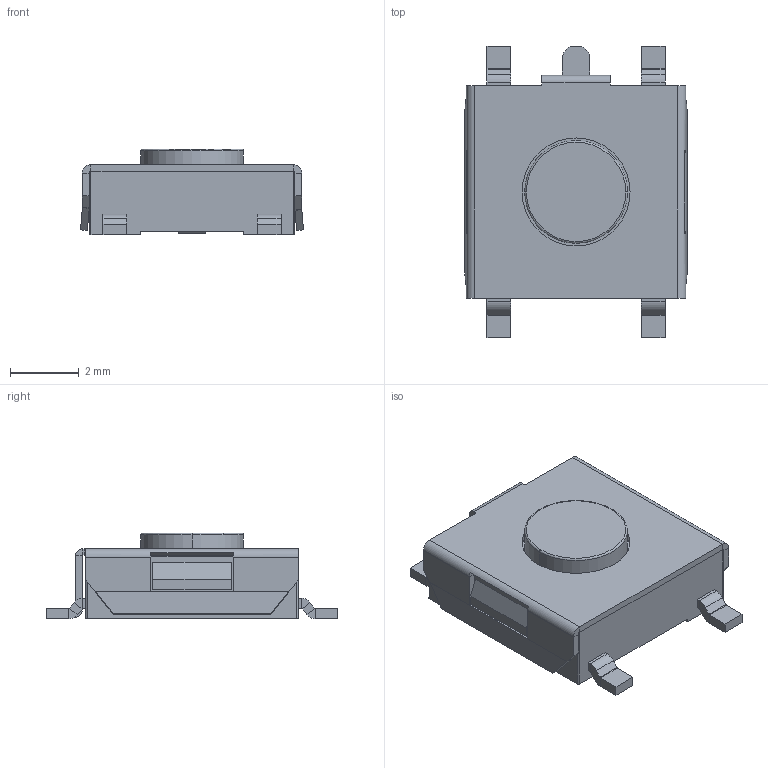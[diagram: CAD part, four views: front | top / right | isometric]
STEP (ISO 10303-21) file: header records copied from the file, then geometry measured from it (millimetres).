
FILE_DESCRIPTION (( 'STEP AP214' ), '1' );
FILE_NAME ('6.2Ｘ6.2五脚贴片.STEP', '2021-04-20T03:39:35', ( 'China' ), ( 'Home' ), 'SwSTEP 2.0', 'SolidWorks 2021', '' );
FILE_SCHEMA (( 'AUTOMOTIVE_DESIGN' ));
Length unit declared in the file: millimetre
Products named in the file (6): 銅え; 裔啣; 價釱; И璃; 偌聽1; 6.2｣ﾘ6.2ﾎ蠖ﾅﾌｬ
Assembly tree (5 placements, depth 2):
  6.2｣ﾘ6.2ﾎ蠖ﾅﾌｬ
    價釱
    И璃
    偌聽1
    裔啣
    銅え
Bounding box: 6.51 x 8.5 x 2.5 mm (x, y, z)
Volume: 72.2 mm3; surface area: 432 mm2
Topology: 9 solids, 9 shells, 379 faces, 872 edges, 512 vertices
Faces by surface type: plane 247, cylinder 108, bspline 10, torus 10, cone 4
Entity records: 10882 total; most frequent: CARTESIAN_POINT 1971, DIRECTION 1796, ORIENTED_EDGE 1736, EDGE_CURVE 868, AXIS2_PLACEMENT_3D 599, VECTOR 598, LINE 598, VERTEX_POINT 512
